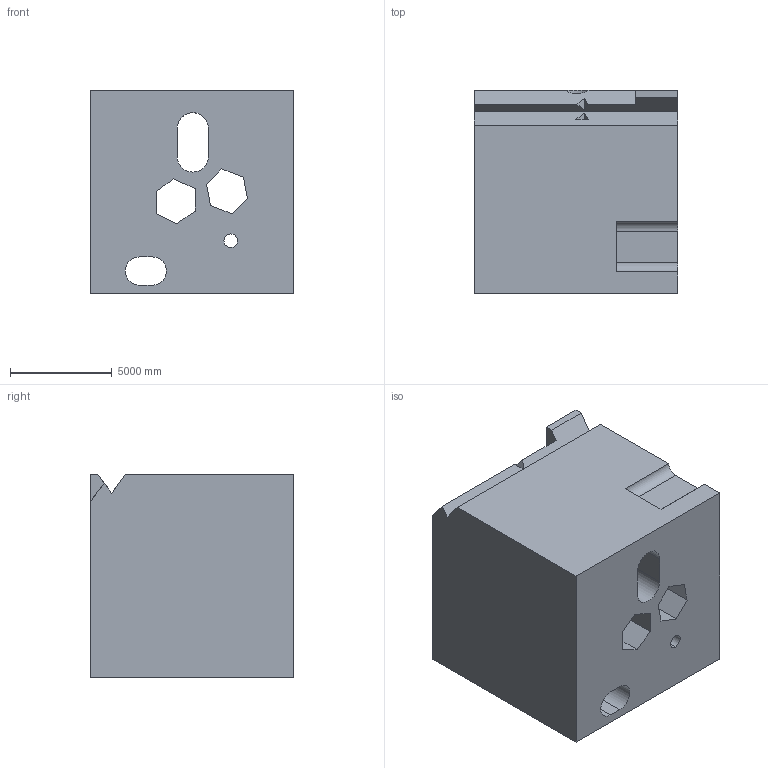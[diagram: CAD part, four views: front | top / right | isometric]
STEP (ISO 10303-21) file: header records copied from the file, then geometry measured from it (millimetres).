
FILE_DESCRIPTION (( 'STEP AP203' ), '1' );
FILE_NAME ('83.STEP', '2022-09-01T14:16:38', ( 'user' ), ( '' ), 'SwSTEP 2.0', 'SolidWorks 2021', '' );
FILE_SCHEMA (( 'CONFIG_CONTROL_DESIGN' ));
Length unit declared in the file: centimetre
Products named in the file (1): 83
Bounding box: 10000 x 10000 x 10000 mm (x, y, z)
Volume: 855218948667.9 mm3; surface area: 873035028.4 mm2
Topology: 1 solids, 1 shells, 44 faces, 126 edges, 84 vertices
Faces by surface type: plane 35, cylinder 9
Entity records: 1525 total; most frequent: CARTESIAN_POINT 261, ORIENTED_EDGE 252, DIRECTION 232, EDGE_CURVE 126, VECTOR 106, LINE 106, VERTEX_POINT 84, AXIS2_PLACEMENT_3D 63
